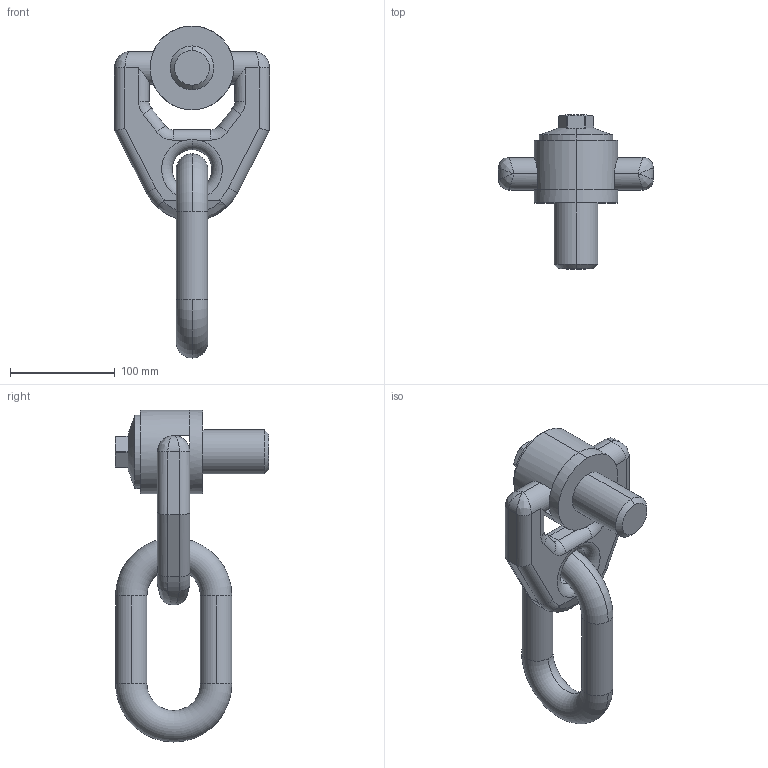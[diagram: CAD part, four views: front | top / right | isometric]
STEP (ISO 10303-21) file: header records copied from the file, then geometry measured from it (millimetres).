
FILE_DESCRIPTION (( 'STEP AP203' ), '1' );
FILE_NAME ('63150.W0042.step', '2013-12-13T11:53:31', ( 'User' ), ( '' ), 'SwSTEP 2.0', 'SolidWorks 2009', '' );
FILE_SCHEMA (( 'CONFIG_CONTROL_DESIGN' ));
Length unit declared in the file: millimetre
Products named in the file (4): 63150.W0042; Part1_63150.W0042; Part2D; Part3_63150.W0042
Assembly tree (3 placements, depth 2):
  63150.W0042
    Part2D
    Part3_63150.W0042
    Part1_63150.W0042
Bounding box: 148 x 147 x 317 mm (x, y, z)
Volume: 1046972.1 mm3; surface area: 129061.9 mm2
Topology: 3 solids, 3 shells, 131 faces, 322 edges, 194 vertices
Faces by surface type: cylinder 50, plane 39, torus 24, cone 10, bspline 8
Entity records: 5644 total; most frequent: CARTESIAN_POINT 2141, DIRECTION 686, ORIENTED_EDGE 644, EDGE_CURVE 322, AXIS2_PLACEMENT_3D 279, VERTEX_POINT 194, CIRCLE 150, EDGE_LOOP 134
